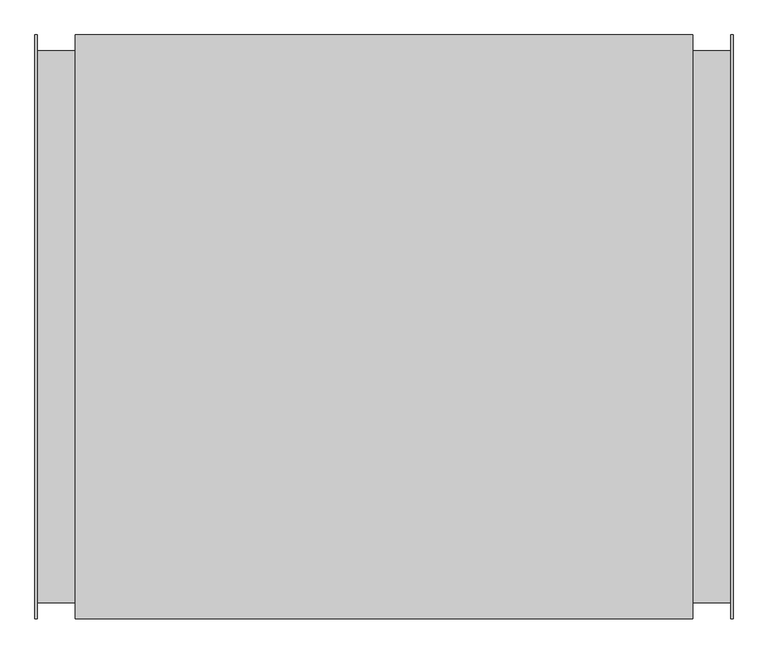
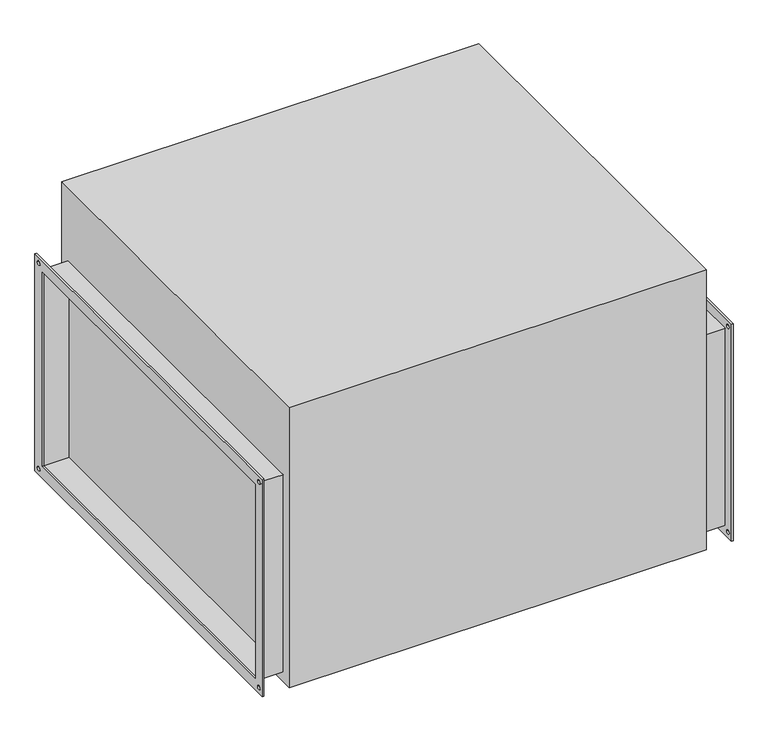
"""IFC4 building model written with IfcOpenShell, lengths in millimetres: proxy geometry."""

from ifc_helpers import new_model, si_unit, point, frame, frame_2d, origin, place, context, project, spatial, polyline, circle_curve, trimmed, segment, composite_curve, outline, extrude, source, transform, mapped, element, save


def mechanical_equipment_6cdd0354(model_context):
    return source(origin(), model_context, "Body", "SweptSolid", [
        extrude(outline(polyline([(480.0, 280.0), (480.0, -280.0), (-480.0, -280.0), (-480.0, 280.0), (480.0, 280.0)]), holes=[polyline([(450.0, 250.0), (-450.0, 250.0), (-450.0, -250.0), (450.0, -250.0), (450.0, 250.0)]), composite_curve([segment(trimmed(circle_curve(frame_2d((465.0, 265.0)), 5.0), [point((460.0, 265.0))], [point((470.0, 265.0))], True, "CARTESIAN"), True, "CONTINUOUS"), segment(trimmed(circle_curve(frame_2d((465.0, 265.0)), 5.0), [point((470.0, 265.0))], [point((460.0, 265.0))], True, "CARTESIAN"), True, "CONTINUOUS")], self_intersect=False), composite_curve([segment(trimmed(circle_curve(frame_2d((-465.0, 265.0)), 5.0), [point((-470.0, 265.0))], [point((-460.0, 265.0))], True, "CARTESIAN"), True, "CONTINUOUS"), segment(trimmed(circle_curve(frame_2d((-465.0, 265.0)), 5.0), [point((-460.0, 265.0))], [point((-470.0, 265.0))], True, "CARTESIAN"), True, "CONTINUOUS")], self_intersect=False), composite_curve([segment(trimmed(circle_curve(frame_2d((-465.0, -265.0)), 5.0), [point((-470.0, -265.0))], [point((-460.0, -265.0))], True, "CARTESIAN"), True, "CONTINUOUS"), segment(trimmed(circle_curve(frame_2d((-465.0, -265.0)), 5.0), [point((-460.0, -265.0))], [point((-470.0, -265.0))], True, "CARTESIAN"), True, "CONTINUOUS")], self_intersect=False), composite_curve([segment(trimmed(circle_curve(frame_2d((465.0, -265.0)), 5.0), [point((460.0, -265.0))], [point((470.0, -265.0))], True, "CARTESIAN"), True, "CONTINUOUS"), segment(trimmed(circle_curve(frame_2d((465.0, -265.0)), 5.0), [point((470.0, -265.0))], [point((460.0, -265.0))], True, "CARTESIAN"), True, "CONTINUOUS")], self_intersect=False)]), frame((570.0, 0.0, 0.0), z_axis=(1.0, 0.0, 0.0), x_axis=(0.0, 1.0, 0.0)), (0.0, 0.0, 1.0), 4.0),
        extrude(outline(polyline([(-480.0, 280.0), (480.0, 280.0), (480.0, -280.0), (-480.0, -280.0), (-480.0, 280.0)]), holes=[polyline([(-450.0, 250.0), (-450.0, -250.0), (450.0, -250.0), (450.0, 250.0), (-450.0, 250.0)]), composite_curve([segment(trimmed(circle_curve(frame_2d((465.0, 265.0)), 5.0), [point((460.0, 265.0))], [point((470.0, 265.0))], True, "CARTESIAN"), True, "CONTINUOUS"), segment(trimmed(circle_curve(frame_2d((465.0, 265.0)), 5.0), [point((470.0, 265.0))], [point((460.0, 265.0))], True, "CARTESIAN"), True, "CONTINUOUS")], self_intersect=False), composite_curve([segment(trimmed(circle_curve(frame_2d((-465.0, 265.0)), 5.0), [point((-470.0, 265.0))], [point((-460.0, 265.0))], True, "CARTESIAN"), True, "CONTINUOUS"), segment(trimmed(circle_curve(frame_2d((-465.0, 265.0)), 5.0), [point((-460.0, 265.0))], [point((-470.0, 265.0))], True, "CARTESIAN"), True, "CONTINUOUS")], self_intersect=False), composite_curve([segment(trimmed(circle_curve(frame_2d((-465.0, -265.0)), 5.0), [point((-470.0, -265.0))], [point((-460.0, -265.0))], True, "CARTESIAN"), True, "CONTINUOUS"), segment(trimmed(circle_curve(frame_2d((-465.0, -265.0)), 5.0), [point((-460.0, -265.0))], [point((-470.0, -265.0))], True, "CARTESIAN"), True, "CONTINUOUS")], self_intersect=False), composite_curve([segment(trimmed(circle_curve(frame_2d((465.0, -265.0)), 5.0), [point((460.0, -265.0))], [point((470.0, -265.0))], True, "CARTESIAN"), True, "CONTINUOUS"), segment(trimmed(circle_curve(frame_2d((465.0, -265.0)), 5.0), [point((470.0, -265.0))], [point((460.0, -265.0))], True, "CARTESIAN"), True, "CONTINUOUS")], self_intersect=False)]), frame((-574.0, 0.0, 0.0), z_axis=(1.0, 0.0, 0.0), x_axis=(0.0, 1.0, 0.0)), (0.0, 0.0, 1.0), 4.0),
        extrude(outline(polyline([(508.0, 480.0), (508.0, -480.0), (-508.0, -480.0), (-508.0, 480.0), (508.0, 480.0)])), frame((0.0, 0.0, -280.0), z_axis=(0.0, 0.0, 1.0), x_axis=(1.0, 0.0, 0.0)), (0.0, 0.0, 1.0), 722.0),
        extrude(outline(polyline([(-454.0, 254.0), (454.0, 254.0), (454.0, -254.0), (-454.0, -254.0), (-454.0, 254.0)]), holes=[polyline([(450.0, 250.0), (-450.0, 250.0), (-450.0, -250.0), (450.0, -250.0), (450.0, 250.0)])]), frame((-570.0, 0.0, 0.0), z_axis=(1.0, 0.0, 0.0), x_axis=(0.0, 1.0, 0.0)), (0.0, 0.0, 1.0), 62.0),
        extrude(outline(polyline([(-454.0, 254.0), (454.0, 254.0), (454.0, -254.0), (-454.0, -254.0), (-454.0, 254.0)]), holes=[polyline([(450.0, 250.0), (-450.0, 250.0), (-450.0, -250.0), (450.0, -250.0), (450.0, 250.0)])]), frame((508.0, 0.0, 0.0), z_axis=(1.0, 0.0, 0.0), x_axis=(0.0, 1.0, 0.0)), (0.0, 0.0, 1.0), 62.0),
    ])


if __name__ == "__main__":
    model = new_model("IFC4")
    model_context = context("Model", 3, world=origin())
    ifc_project = project(units=[si_unit("LENGTHUNIT", "METRE", prefix="MILLI")], contexts=[model_context])
    site = spatial("IfcSite", under=ifc_project)
    building = spatial("IfcBuilding", under=site)
    placement = place(None, origin())
    mechanical_equipment_shape = mechanical_equipment_6cdd0354(model_context)
    element("IfcBuildingElementProxy", 1, Name="Mechanical Equipment", at=placement, inside=building, context=model_context, shape_type="MappedRepresentation", body=[
        mapped(mechanical_equipment_shape, transform((0.0, 0.0, 0.0), x_axis=(1.0, 0.0, 0.0), y_axis=(0.0, 1.0, 0.0), z_axis=(0.0, 0.0, 1.0))),
    ])
    save(model, "model.ifc")
